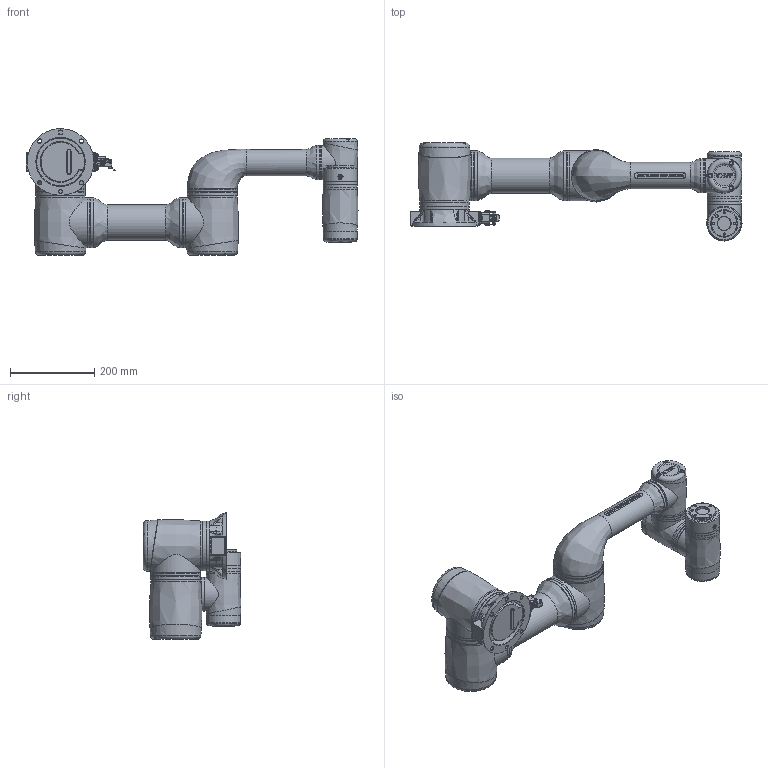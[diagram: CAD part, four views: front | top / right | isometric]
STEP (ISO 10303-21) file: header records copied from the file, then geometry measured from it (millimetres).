
FILE_DESCRIPTION (( 'STEP AP214' ), '1' );
FILE_NAME ('C 7.STEP', '2023-10-15T15:33:07', ( '' ), ( '' ), 'SwSTEP 2.0', 'SolidWorks 2016', '' );
FILE_SCHEMA (( 'AUTOMOTIVE_DESIGN' ));
Length unit declared in the file: millimetre
Products named in the file (15): C 7 02; C 7 04; C 7; C 7 06; C 7 01; C 7 00; C 7 05; C 7 03
Assembly tree (7 placements, depth 2):
  C 7 02
  C 7
    C 7 00
    C 7 01
    C 7 02
    C 7 03
    C 7 04
    C 7 05
    C 7 06
  C 7 06
  C 7 01
  C 7 00
Bounding box: 787.68 x 232.47 x 300.61 mm (x, y, z)
Volume: 11249382.5 mm3; surface area: 720718.7 mm2
Topology: 13 solids, 17 shells, 1671 faces, 4365 edges, 2866 vertices
Faces by surface type: plane 986, cylinder 318, bspline 290, torus 43, cone 31, sphere 3
Full cylindrical faces by diameter (mm): 0.8 x8, 0.9 x9, 2 x5, 3 x4, 3.2 x3, 4.8 x2, 5 x4, 5.5 x2, 5.8 x1, 6 x1, 6.2 x3, 8 x11, 9 x6, 9.58 x1, 14 x2, 20 x1, 20.6 x1, 31.5 x1, 43.797 x1, 47.7 x2, 57 x1, 62.6 x1, 63 x1, 78 x2, 81 x19, 84 x1, 115 x3, 118 x20
Entity records: 89105 total; most frequent: CARTESIAN_POINT 39030, ORIENTED_EDGE 7992, DIRECTION 6430, EDGE_CURVE 4042, VERTEX_POINT 2779, VECTOR 2542, LINE 2542, EDGE_LOOP 2082
